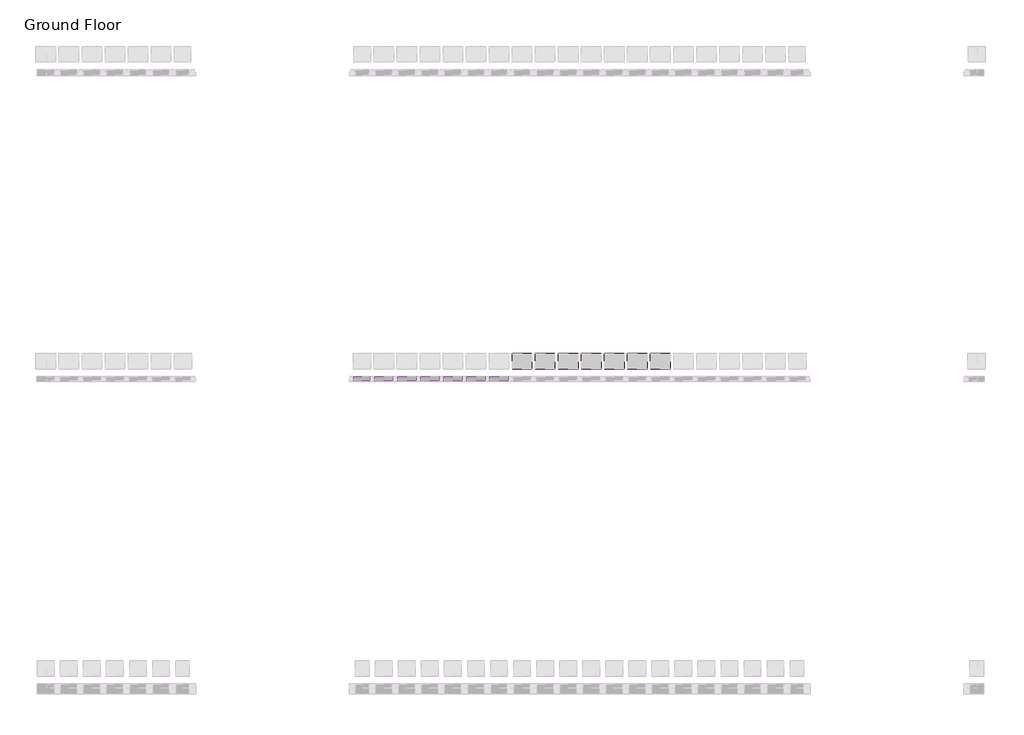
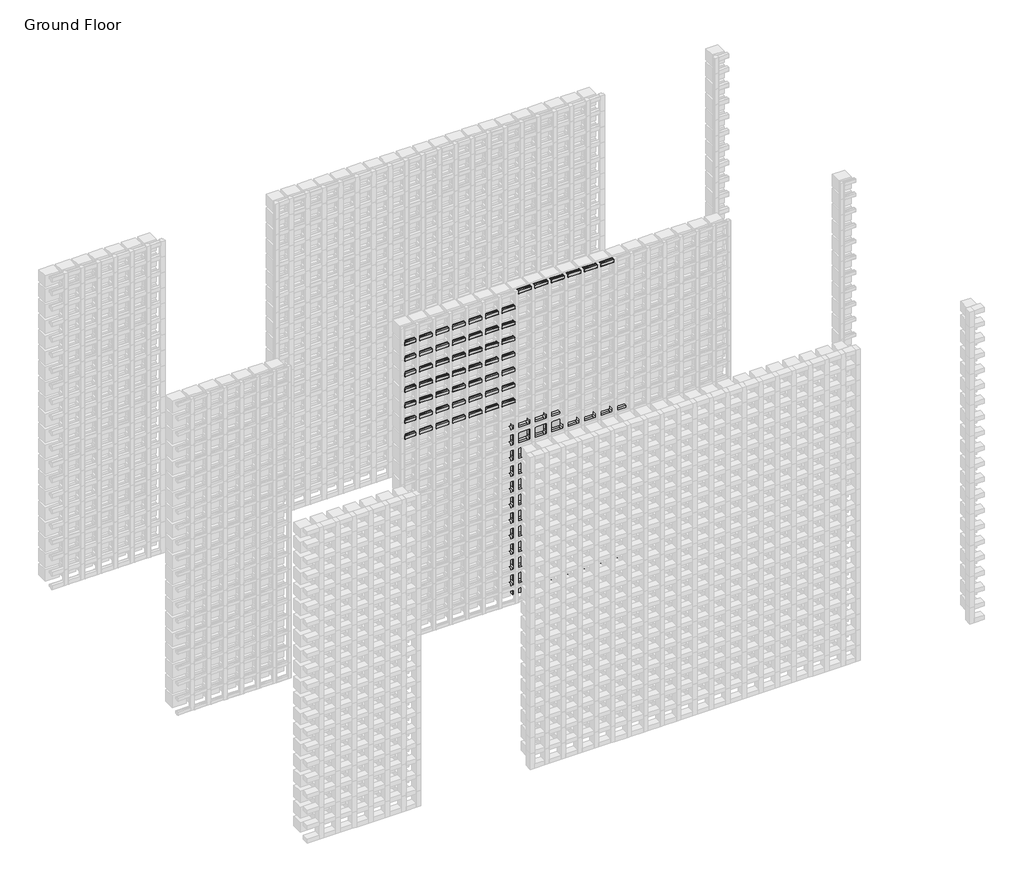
# One storey, part 138 of 350: 73 plates, 67 members.
"""IFC4 building model written with IfcOpenShell, lengths in millimetres."""

from ifc_helpers import new_model, si_unit, origin, place, context, project, spatial, transform, mapped, element, save
from components import rectangular_mullion_01bdf753, rectangular_mullion_f1976eb1, rectangular_mullion_02594090, rectangular_mullion_790ae51e, rectangular_mullion_e2bab149, empty_system_panel_empty_5a3607ba, empty_system_panel_empty_babc703c

model = new_model("IFC4")

# Units and contexts
model_context = context("Model", 3, world=origin())
ifc_project = project(units=[si_unit("LENGTHUNIT", "METRE", prefix="MILLI")], contexts=[model_context])

# Site, building, storey
site = spatial("IfcSite", under=ifc_project)
building = spatial("IfcBuilding", under=site)
storey = spatial("IfcBuildingStorey", under=building, Name="Ground Floor", Elevation=0.0)

# Members
placement = place(None, origin())
rectangular_mullion_shape = rectangular_mullion_01bdf753(model_context)
element("IfcMember", 1, ObjectType="Rectangular Mullion : Batten_Timber_Modinex_Austratus_Grid_Fin_30x30_Hemlock", at=placement, inside=storey, context=model_context, shape_type="MappedRepresentation", body=[
    mapped(rectangular_mullion_shape, transform((10201.4361642, 42968.2978302, 1950.0), x_axis=(0.0, 0.0, 1.0), y_axis=(0.0, -1.0, 0.0), z_axis=(1.0, 0.0, 0.0))),
])
element("IfcMember", 2, ObjectType="Rectangular Mullion : Batten_Timber_Modinex_Austratus_Grid_Fin_30x30_Hemlock", at=placement, inside=storey, context=model_context, shape_type="MappedRepresentation", body=[
    mapped(rectangular_mullion_shape, transform((10351.4361642, 42968.2978302, 1950.0), x_axis=(0.0, 0.0, 1.0), y_axis=(0.0, -1.0, 0.0), z_axis=(1.0, 0.0, 0.0))),
])
element("IfcMember", 3, ObjectType="Rectangular Mullion : Batten_Timber_Modinex_Austratus_Grid_Fin_30x30_Hemlock", at=placement, inside=storey, context=model_context, shape_type="MappedRepresentation", body=[
    mapped(rectangular_mullion_shape, transform((10501.4361642, 42968.2978302, 1950.0), x_axis=(0.0, 0.0, 1.0), y_axis=(0.0, -1.0, 0.0), z_axis=(1.0, 0.0, 0.0))),
])
element("IfcMember", 4, ObjectType="Rectangular Mullion : Batten_Timber_Modinex_Austratus_Grid_Fin_30x30_Hemlock", at=placement, inside=storey, context=model_context, shape_type="MappedRepresentation", body=[
    mapped(rectangular_mullion_shape, transform((10651.4361642, 42968.2978302, 1950.0), x_axis=(0.0, 0.0, 1.0), y_axis=(0.0, -1.0, 0.0), z_axis=(1.0, 0.0, 0.0))),
])
element("IfcMember", 5, ObjectType="Rectangular Mullion : Batten_Timber_Modinex_Austratus_Grid_Fin_30x30_Hemlock", at=placement, inside=storey, context=model_context, shape_type="MappedRepresentation", body=[
    mapped(rectangular_mullion_shape, transform((10801.4361642, 42968.2978302, 1950.0), x_axis=(0.0, 0.0, 1.0), y_axis=(0.0, -1.0, 0.0), z_axis=(1.0, 0.0, 0.0))),
])
element("IfcMember", 6, ObjectType="Rectangular Mullion : Batten_Timber_Modinex_Austratus_Grid_Fin_30x30_Hemlock", at=placement, inside=storey, context=model_context, shape_type="MappedRepresentation", body=[
    mapped(rectangular_mullion_shape, transform((10951.4361642, 42968.2978302, 1950.0), x_axis=(0.0, 0.0, 1.0), y_axis=(0.0, -1.0, 0.0), z_axis=(1.0, 0.0, 0.0))),
])
element("IfcMember", 7, ObjectType="Rectangular Mullion : Batten_Timber_Modinex_Austratus_Grid_Fin_30x30_Hemlock", at=placement, inside=storey, context=model_context, shape_type="MappedRepresentation", body=[
    mapped(rectangular_mullion_shape, transform((10201.4361642, 42968.2978302, 2100.0), x_axis=(0.0, 0.0, 1.0), y_axis=(0.0, -1.0, 0.0), z_axis=(1.0, 0.0, 0.0))),
])
element("IfcMember", 8, ObjectType="Rectangular Mullion : Batten_Timber_Modinex_Austratus_Grid_Fin_30x30_Hemlock", at=placement, inside=storey, context=model_context, shape_type="MappedRepresentation", body=[
    mapped(rectangular_mullion_shape, transform((10351.4361642, 42968.2978302, 2100.0), x_axis=(0.0, 0.0, 1.0), y_axis=(0.0, -1.0, 0.0), z_axis=(1.0, 0.0, 0.0))),
])
element("IfcMember", 9, ObjectType="Rectangular Mullion : Batten_Timber_Modinex_Austratus_Grid_Fin_30x30_Hemlock", at=placement, inside=storey, context=model_context, shape_type="MappedRepresentation", body=[
    mapped(rectangular_mullion_shape, transform((10501.4361642, 42968.2978302, 2100.0), x_axis=(0.0, 0.0, 1.0), y_axis=(0.0, -1.0, 0.0), z_axis=(1.0, 0.0, 0.0))),
])
element("IfcMember", 10, ObjectType="Rectangular Mullion : Batten_Timber_Modinex_Austratus_Grid_Fin_30x30_Hemlock", at=placement, inside=storey, context=model_context, shape_type="MappedRepresentation", body=[
    mapped(rectangular_mullion_shape, transform((10651.4361642, 42968.2978302, 2100.0), x_axis=(0.0, 0.0, 1.0), y_axis=(0.0, -1.0, 0.0), z_axis=(1.0, 0.0, 0.0))),
])
element("IfcMember", 11, ObjectType="Rectangular Mullion : Batten_Timber_Modinex_Austratus_Grid_Fin_30x30_Hemlock", at=placement, inside=storey, context=model_context, shape_type="MappedRepresentation", body=[
    mapped(rectangular_mullion_shape, transform((10801.4361642, 42968.2978302, 2100.0), x_axis=(0.0, 0.0, 1.0), y_axis=(0.0, -1.0, 0.0), z_axis=(1.0, 0.0, 0.0))),
])
element("IfcMember", 12, ObjectType="Rectangular Mullion : Batten_Timber_Modinex_Austratus_Grid_Fin_30x30_Hemlock", at=placement, inside=storey, context=model_context, shape_type="MappedRepresentation", body=[
    mapped(rectangular_mullion_shape, transform((10951.4361642, 42968.2978302, 2100.0), x_axis=(0.0, 0.0, 1.0), y_axis=(0.0, -1.0, 0.0), z_axis=(1.0, 0.0, 0.0))),
])
element("IfcMember", 13, ObjectType="Rectangular Mullion : Batten_Timber_Modinex_Austratus_Grid_Fin_30x30_Hemlock", at=placement, inside=storey, context=model_context, shape_type="MappedRepresentation", body=[
    mapped(rectangular_mullion_shape, transform((10201.4361642, 42968.2978302, 2250.0), x_axis=(0.0, 0.0, 1.0), y_axis=(0.0, -1.0, 0.0), z_axis=(1.0, 0.0, 0.0))),
])
element("IfcMember", 14, ObjectType="Rectangular Mullion : Batten_Timber_Modinex_Austratus_Grid_Fin_30x30_Hemlock", at=placement, inside=storey, context=model_context, shape_type="MappedRepresentation", body=[
    mapped(rectangular_mullion_shape, transform((10351.4361642, 42968.2978302, 2250.0), x_axis=(0.0, 0.0, 1.0), y_axis=(0.0, -1.0, 0.0), z_axis=(1.0, 0.0, 0.0))),
])
element("IfcMember", 15, ObjectType="Rectangular Mullion : Batten_Timber_Modinex_Austratus_Grid_Fin_30x30_Hemlock", at=placement, inside=storey, context=model_context, shape_type="MappedRepresentation", body=[
    mapped(rectangular_mullion_shape, transform((10501.4361642, 42968.2978302, 2250.0), x_axis=(0.0, 0.0, 1.0), y_axis=(0.0, -1.0, 0.0), z_axis=(1.0, 0.0, 0.0))),
])
element("IfcMember", 16, ObjectType="Rectangular Mullion : Batten_Timber_Modinex_Austratus_Grid_Fin_30x30_Hemlock", at=placement, inside=storey, context=model_context, shape_type="MappedRepresentation", body=[
    mapped(rectangular_mullion_shape, transform((10651.4361642, 42968.2978302, 2250.0), x_axis=(0.0, 0.0, 1.0), y_axis=(0.0, -1.0, 0.0), z_axis=(1.0, 0.0, 0.0))),
])
element("IfcMember", 17, ObjectType="Rectangular Mullion : Batten_Timber_Modinex_Austratus_Grid_Fin_30x30_Hemlock", at=placement, inside=storey, context=model_context, shape_type="MappedRepresentation", body=[
    mapped(rectangular_mullion_shape, transform((10801.4361642, 42968.2978302, 2250.0), x_axis=(0.0, 0.0, 1.0), y_axis=(0.0, -1.0, 0.0), z_axis=(1.0, 0.0, 0.0))),
])
element("IfcMember", 18, ObjectType="Rectangular Mullion : Batten_Timber_Modinex_Austratus_Grid_Fin_30x30_Hemlock", at=placement, inside=storey, context=model_context, shape_type="MappedRepresentation", body=[
    mapped(rectangular_mullion_shape, transform((10951.4361642, 42968.2978302, 2250.0), x_axis=(0.0, 0.0, 1.0), y_axis=(0.0, -1.0, 0.0), z_axis=(1.0, 0.0, 0.0))),
])
element("IfcMember", 19, ObjectType="Rectangular Mullion : Batten_Timber_Modinex_Austratus_Grid_Fin_30x30_Hemlock", at=placement, inside=storey, context=model_context, shape_type="MappedRepresentation", body=[
    mapped(rectangular_mullion_shape, transform((10201.4361642, 42968.2978302, 2400.0), x_axis=(0.0, 0.0, 1.0), y_axis=(0.0, -1.0, 0.0), z_axis=(1.0, 0.0, 0.0))),
])
element("IfcMember", 20, ObjectType="Rectangular Mullion : Batten_Timber_Modinex_Austratus_Grid_Fin_30x30_Hemlock", at=placement, inside=storey, context=model_context, shape_type="MappedRepresentation", body=[
    mapped(rectangular_mullion_shape, transform((10351.4361642, 42968.2978302, 2400.0), x_axis=(0.0, 0.0, 1.0), y_axis=(0.0, -1.0, 0.0), z_axis=(1.0, 0.0, 0.0))),
])
element("IfcMember", 21, ObjectType="Rectangular Mullion : Batten_Timber_Modinex_Austratus_Grid_Fin_30x30_Hemlock", at=placement, inside=storey, context=model_context, shape_type="MappedRepresentation", body=[
    mapped(rectangular_mullion_shape, transform((10501.4361642, 42968.2978302, 2400.0), x_axis=(0.0, 0.0, 1.0), y_axis=(0.0, -1.0, 0.0), z_axis=(1.0, 0.0, 0.0))),
])
element("IfcMember", 22, ObjectType="Rectangular Mullion : Batten_Timber_Modinex_Austratus_Grid_Fin_30x30_Hemlock", at=placement, inside=storey, context=model_context, shape_type="MappedRepresentation", body=[
    mapped(rectangular_mullion_shape, transform((10651.4361642, 42968.2978302, 2400.0), x_axis=(0.0, 0.0, 1.0), y_axis=(0.0, -1.0, 0.0), z_axis=(1.0, 0.0, 0.0))),
])
element("IfcMember", 23, ObjectType="Rectangular Mullion : Batten_Timber_Modinex_Austratus_Grid_Fin_30x30_Hemlock", at=placement, inside=storey, context=model_context, shape_type="MappedRepresentation", body=[
    mapped(rectangular_mullion_shape, transform((10801.4361642, 42968.2978302, 2400.0), x_axis=(0.0, 0.0, 1.0), y_axis=(0.0, -1.0, 0.0), z_axis=(1.0, 0.0, 0.0))),
])
element("IfcMember", 24, ObjectType="Rectangular Mullion : Batten_Timber_Modinex_Austratus_Grid_Fin_30x30_Hemlock", at=placement, inside=storey, context=model_context, shape_type="MappedRepresentation", body=[
    mapped(rectangular_mullion_shape, transform((10951.4361642, 42968.2978302, 2400.0), x_axis=(0.0, 0.0, 1.0), y_axis=(0.0, -1.0, 0.0), z_axis=(1.0, 0.0, 0.0))),
])
element("IfcMember", 25, ObjectType="Rectangular Mullion : Batten_Timber_Modinex_Austratus_Grid_Fin_30x30_Hemlock", at=placement, inside=storey, context=model_context, shape_type="MappedRepresentation", body=[
    mapped(rectangular_mullion_shape, transform((10201.4361642, 42968.2978302, 2550.0), x_axis=(0.0, 0.0, 1.0), y_axis=(0.0, -1.0, 0.0), z_axis=(1.0, 0.0, 0.0))),
])
element("IfcMember", 26, ObjectType="Rectangular Mullion : Batten_Timber_Modinex_Austratus_Grid_Fin_30x30_Hemlock", at=placement, inside=storey, context=model_context, shape_type="MappedRepresentation", body=[
    mapped(rectangular_mullion_shape, transform((10351.4361642, 42968.2978302, 2550.0), x_axis=(0.0, 0.0, 1.0), y_axis=(0.0, -1.0, 0.0), z_axis=(1.0, 0.0, 0.0))),
])
element("IfcMember", 27, ObjectType="Rectangular Mullion : Batten_Timber_Modinex_Austratus_Grid_Fin_30x30_Hemlock", at=placement, inside=storey, context=model_context, shape_type="MappedRepresentation", body=[
    mapped(rectangular_mullion_shape, transform((10501.4361642, 42968.2978302, 2550.0), x_axis=(0.0, 0.0, 1.0), y_axis=(0.0, -1.0, 0.0), z_axis=(1.0, 0.0, 0.0))),
])
element("IfcMember", 28, ObjectType="Rectangular Mullion : Batten_Timber_Modinex_Austratus_Grid_Fin_30x30_Hemlock", at=placement, inside=storey, context=model_context, shape_type="MappedRepresentation", body=[
    mapped(rectangular_mullion_shape, transform((10651.4361642, 42968.2978302, 2550.0), x_axis=(0.0, 0.0, 1.0), y_axis=(0.0, -1.0, 0.0), z_axis=(1.0, 0.0, 0.0))),
])
element("IfcMember", 29, ObjectType="Rectangular Mullion : Batten_Timber_Modinex_Austratus_Grid_Fin_30x30_Hemlock", at=placement, inside=storey, context=model_context, shape_type="MappedRepresentation", body=[
    mapped(rectangular_mullion_shape, transform((10801.4361642, 42968.2978302, 2550.0), x_axis=(0.0, 0.0, 1.0), y_axis=(0.0, -1.0, 0.0), z_axis=(1.0, 0.0, 0.0))),
])
element("IfcMember", 30, ObjectType="Rectangular Mullion : Batten_Timber_Modinex_Austratus_Grid_Fin_30x30_Hemlock", at=placement, inside=storey, context=model_context, shape_type="MappedRepresentation", body=[
    mapped(rectangular_mullion_shape, transform((10951.4361642, 42968.2978302, 2550.0), x_axis=(0.0, 0.0, 1.0), y_axis=(0.0, -1.0, 0.0), z_axis=(1.0, 0.0, 0.0))),
])
element("IfcMember", 31, ObjectType="Rectangular Mullion : Batten_Timber_Modinex_Austratus_Grid_Fin_30x30_Hemlock", at=placement, inside=storey, context=model_context, shape_type="MappedRepresentation", body=[
    mapped(rectangular_mullion_shape, transform((10201.4361642, 42968.2978302, 2700.0), x_axis=(0.0, 0.0, 1.0), y_axis=(0.0, -1.0, 0.0), z_axis=(1.0, 0.0, 0.0))),
])
element("IfcMember", 32, ObjectType="Rectangular Mullion : Batten_Timber_Modinex_Austratus_Grid_Fin_30x30_Hemlock", at=placement, inside=storey, context=model_context, shape_type="MappedRepresentation", body=[
    mapped(rectangular_mullion_shape, transform((10351.4361642, 42968.2978302, 2700.0), x_axis=(0.0, 0.0, 1.0), y_axis=(0.0, -1.0, 0.0), z_axis=(1.0, 0.0, 0.0))),
])
element("IfcMember", 33, ObjectType="Rectangular Mullion : Batten_Timber_Modinex_Austratus_Grid_Fin_30x30_Hemlock", at=placement, inside=storey, context=model_context, shape_type="MappedRepresentation", body=[
    mapped(rectangular_mullion_shape, transform((10501.4361642, 42968.2978302, 2700.0), x_axis=(0.0, 0.0, 1.0), y_axis=(0.0, -1.0, 0.0), z_axis=(1.0, 0.0, 0.0))),
])
element("IfcMember", 34, ObjectType="Rectangular Mullion : Batten_Timber_Modinex_Austratus_Grid_Fin_30x30_Hemlock", at=placement, inside=storey, context=model_context, shape_type="MappedRepresentation", body=[
    mapped(rectangular_mullion_shape, transform((10651.4361642, 42968.2978302, 2700.0), x_axis=(0.0, 0.0, 1.0), y_axis=(0.0, -1.0, 0.0), z_axis=(1.0, 0.0, 0.0))),
])
element("IfcMember", 35, ObjectType="Rectangular Mullion : Batten_Timber_Modinex_Austratus_Grid_Fin_30x30_Hemlock", at=placement, inside=storey, context=model_context, shape_type="MappedRepresentation", body=[
    mapped(rectangular_mullion_shape, transform((10801.4361642, 42968.2978302, 2700.0), x_axis=(0.0, 0.0, 1.0), y_axis=(0.0, -1.0, 0.0), z_axis=(1.0, 0.0, 0.0))),
])
element("IfcMember", 36, ObjectType="Rectangular Mullion : Batten_Timber_Modinex_Austratus_Grid_Fin_30x30_Hemlock", at=placement, inside=storey, context=model_context, shape_type="MappedRepresentation", body=[
    mapped(rectangular_mullion_shape, transform((10951.4361642, 42968.2978302, 2700.0), x_axis=(0.0, 0.0, 1.0), y_axis=(0.0, -1.0, 0.0), z_axis=(1.0, 0.0, 0.0))),
])
element("IfcMember", 37, ObjectType="Rectangular Mullion : Batten_Timber_Modinex_Austratus_Grid_Fin_30x30_Hemlock", at=placement, inside=storey, context=model_context, shape_type="MappedRepresentation", body=[
    mapped(rectangular_mullion_shape, transform((10201.4361642, 42968.2978302, 2850.0), x_axis=(0.0, 0.0, 1.0), y_axis=(0.0, -1.0, 0.0), z_axis=(1.0, 0.0, 0.0))),
])
element("IfcMember", 38, ObjectType="Rectangular Mullion : Batten_Timber_Modinex_Austratus_Grid_Fin_30x30_Hemlock", at=placement, inside=storey, context=model_context, shape_type="MappedRepresentation", body=[
    mapped(rectangular_mullion_shape, transform((10351.4361642, 42968.2978302, 2850.0), x_axis=(0.0, 0.0, 1.0), y_axis=(0.0, -1.0, 0.0), z_axis=(1.0, 0.0, 0.0))),
])
element("IfcMember", 39, ObjectType="Rectangular Mullion : Batten_Timber_Modinex_Austratus_Grid_Fin_30x30_Hemlock", at=placement, inside=storey, context=model_context, shape_type="MappedRepresentation", body=[
    mapped(rectangular_mullion_shape, transform((10501.4361642, 42968.2978302, 2850.0), x_axis=(0.0, 0.0, 1.0), y_axis=(0.0, -1.0, 0.0), z_axis=(1.0, 0.0, 0.0))),
])
element("IfcMember", 40, ObjectType="Rectangular Mullion : Batten_Timber_Modinex_Austratus_Grid_Fin_30x30_Hemlock", at=placement, inside=storey, context=model_context, shape_type="MappedRepresentation", body=[
    mapped(rectangular_mullion_shape, transform((10651.4361642, 42968.2978302, 2850.0), x_axis=(0.0, 0.0, 1.0), y_axis=(0.0, -1.0, 0.0), z_axis=(1.0, 0.0, 0.0))),
])
element("IfcMember", 41, ObjectType="Rectangular Mullion : Batten_Timber_Modinex_Austratus_Grid_Fin_30x30_Hemlock", at=placement, inside=storey, context=model_context, shape_type="MappedRepresentation", body=[
    mapped(rectangular_mullion_shape, transform((10801.4361642, 42968.2978302, 2850.0), x_axis=(0.0, 0.0, 1.0), y_axis=(0.0, -1.0, 0.0), z_axis=(1.0, 0.0, 0.0))),
])
element("IfcMember", 42, ObjectType="Rectangular Mullion : Batten_Timber_Modinex_Austratus_Grid_Fin_30x30_Hemlock", at=placement, inside=storey, context=model_context, shape_type="MappedRepresentation", body=[
    mapped(rectangular_mullion_shape, transform((10951.4361642, 42968.2978302, 2850.0), x_axis=(0.0, 0.0, 1.0), y_axis=(0.0, -1.0, 0.0), z_axis=(1.0, 0.0, 0.0))),
])
rectangular_mullion_2_shape = rectangular_mullion_f1976eb1(model_context)
element("IfcMember", 43, ObjectType="Rectangular Mullion : Batten_Timber_Modinex_Austratus_Grid_Fin_30x30_Hemlock", at=placement, inside=storey, context=model_context, shape_type="MappedRepresentation", body=[
    mapped(rectangular_mullion_2_shape, transform((11116.4361642, 42968.2978302, 0.0), x_axis=(1.0, 0.0, 0.0), y_axis=(0.0, -1.0, 0.0), z_axis=(0.0, 0.0, -1.0))),
])
element("IfcMember", 44, ObjectType="Rectangular Mullion : Batten_Timber_Modinex_Austratus_Grid_Fin_30x30_Hemlock", at=placement, inside=storey, context=model_context, shape_type="MappedRepresentation", body=[
    mapped(rectangular_mullion_2_shape, transform((11266.4361642, 42968.2978302, 0.0), x_axis=(1.0, 0.0, 0.0), y_axis=(0.0, -1.0, 0.0), z_axis=(0.0, 0.0, -1.0))),
])
element("IfcMember", 45, ObjectType="Rectangular Mullion : Batten_Timber_Modinex_Austratus_Grid_Fin_30x30_Hemlock", at=placement, inside=storey, context=model_context, shape_type="MappedRepresentation", body=[
    mapped(rectangular_mullion_2_shape, transform((11416.4361642, 42968.2978302, 0.0), x_axis=(1.0, 0.0, 0.0), y_axis=(0.0, -1.0, 0.0), z_axis=(0.0, 0.0, -1.0))),
])
element("IfcMember", 46, ObjectType="Rectangular Mullion : Batten_Timber_Modinex_Austratus_Grid_Fin_30x30_Hemlock", at=placement, inside=storey, context=model_context, shape_type="MappedRepresentation", body=[
    mapped(rectangular_mullion_2_shape, transform((11566.4361642, 42968.2978302, 0.0), x_axis=(1.0, 0.0, 0.0), y_axis=(0.0, -1.0, 0.0), z_axis=(0.0, 0.0, -1.0))),
])
element("IfcMember", 47, ObjectType="Rectangular Mullion : Batten_Timber_Modinex_Austratus_Grid_Fin_30x30_Hemlock", at=placement, inside=storey, context=model_context, shape_type="MappedRepresentation", body=[
    mapped(rectangular_mullion_2_shape, transform((11716.4361642, 42968.2978302, 0.0), x_axis=(1.0, 0.0, 0.0), y_axis=(0.0, -1.0, 0.0), z_axis=(0.0, 0.0, -1.0))),
])
element("IfcMember", 48, ObjectType="Rectangular Mullion : Batten_Timber_Modinex_Austratus_Grid_Fin_30x30_Hemlock", at=placement, inside=storey, context=model_context, shape_type="MappedRepresentation", body=[
    mapped(rectangular_mullion_2_shape, transform((11866.4361642, 42968.2978302, 0.0), x_axis=(1.0, 0.0, 0.0), y_axis=(0.0, -1.0, 0.0), z_axis=(0.0, 0.0, -1.0))),
])
rectangular_mullion_3_shape = rectangular_mullion_02594090(model_context)
element("IfcMember", 49, ObjectType="Rectangular Mullion : Batten_Timber_Modinex_Austratus_Grid_Fin_30x30_Hemlock", at=placement, inside=storey, context=model_context, shape_type="MappedRepresentation", body=[
    mapped(rectangular_mullion_3_shape, transform((11101.4361642, 42968.2978302, 3000.0), x_axis=(0.0, 0.0, 1.0), y_axis=(0.0, -1.0, 0.0), z_axis=(1.0, 0.0, 0.0))),
])
element("IfcMember", 50, ObjectType="Rectangular Mullion : Batten_Timber_Modinex_Austratus_Grid_Fin_30x30_Hemlock", at=placement, inside=storey, context=model_context, shape_type="MappedRepresentation", body=[
    mapped(rectangular_mullion_3_shape, transform((11251.4361642, 42968.2978302, 3000.0), x_axis=(0.0, 0.0, 1.0), y_axis=(0.0, -1.0, 0.0), z_axis=(1.0, 0.0, 0.0))),
])
element("IfcMember", 51, ObjectType="Rectangular Mullion : Batten_Timber_Modinex_Austratus_Grid_Fin_30x30_Hemlock", at=placement, inside=storey, context=model_context, shape_type="MappedRepresentation", body=[
    mapped(rectangular_mullion_3_shape, transform((11401.4361642, 42968.2978302, 3000.0), x_axis=(0.0, 0.0, 1.0), y_axis=(0.0, -1.0, 0.0), z_axis=(1.0, 0.0, 0.0))),
])
element("IfcMember", 52, ObjectType="Rectangular Mullion : Batten_Timber_Modinex_Austratus_Grid_Fin_30x30_Hemlock", at=placement, inside=storey, context=model_context, shape_type="MappedRepresentation", body=[
    mapped(rectangular_mullion_3_shape, transform((11551.4361642, 42968.2978302, 3000.0), x_axis=(0.0, 0.0, 1.0), y_axis=(0.0, -1.0, 0.0), z_axis=(1.0, 0.0, 0.0))),
])
element("IfcMember", 53, ObjectType="Rectangular Mullion : Batten_Timber_Modinex_Austratus_Grid_Fin_30x30_Hemlock", at=placement, inside=storey, context=model_context, shape_type="MappedRepresentation", body=[
    mapped(rectangular_mullion_3_shape, transform((11701.4361642, 42968.2978302, 3000.0), x_axis=(0.0, 0.0, 1.0), y_axis=(0.0, -1.0, 0.0), z_axis=(1.0, 0.0, 0.0))),
])
element("IfcMember", 54, ObjectType="Rectangular Mullion : Batten_Timber_Modinex_Austratus_Grid_Fin_30x30_Hemlock", at=placement, inside=storey, context=model_context, shape_type="MappedRepresentation", body=[
    mapped(rectangular_mullion_3_shape, transform((11851.4361642, 42968.2978302, 3000.0), x_axis=(0.0, 0.0, 1.0), y_axis=(0.0, -1.0, 0.0), z_axis=(1.0, 0.0, 0.0))),
])
rectangular_mullion_4_shape = rectangular_mullion_790ae51e(model_context)
element("IfcMember", 55, ObjectType="Rectangular Mullion : Batten_Timber_Modinex_Austratus_Grid_Fin_30x30_Hemlock", at=placement, inside=storey, context=model_context, shape_type="MappedRepresentation", body=[
    mapped(rectangular_mullion_4_shape, transform((11131.4361642, 42968.2978302, 0.0), x_axis=(0.0, 0.0, -1.0), y_axis=(0.0, -1.0, 0.0), z_axis=(-1.0, 0.0, 0.0))),
])
element("IfcMember", 56, ObjectType="Rectangular Mullion : Batten_Timber_Modinex_Austratus_Grid_Fin_30x30_Hemlock", at=placement, inside=storey, context=model_context, shape_type="MappedRepresentation", body=[
    mapped(rectangular_mullion_4_shape, transform((11281.4361642, 42968.2978302, 0.0), x_axis=(0.0, 0.0, -1.0), y_axis=(0.0, -1.0, 0.0), z_axis=(-1.0, 0.0, 0.0))),
])
element("IfcMember", 57, ObjectType="Rectangular Mullion : Batten_Timber_Modinex_Austratus_Grid_Fin_30x30_Hemlock", at=placement, inside=storey, context=model_context, shape_type="MappedRepresentation", body=[
    mapped(rectangular_mullion_4_shape, transform((11431.4361642, 42968.2978302, 0.0), x_axis=(0.0, 0.0, -1.0), y_axis=(0.0, -1.0, 0.0), z_axis=(-1.0, 0.0, 0.0))),
])
element("IfcMember", 58, ObjectType="Rectangular Mullion : Batten_Timber_Modinex_Austratus_Grid_Fin_30x30_Hemlock", at=placement, inside=storey, context=model_context, shape_type="MappedRepresentation", body=[
    mapped(rectangular_mullion_4_shape, transform((11581.4361642, 42968.2978302, 0.0), x_axis=(0.0, 0.0, -1.0), y_axis=(0.0, -1.0, 0.0), z_axis=(-1.0, 0.0, 0.0))),
])
element("IfcMember", 59, ObjectType="Rectangular Mullion : Batten_Timber_Modinex_Austratus_Grid_Fin_30x30_Hemlock", at=placement, inside=storey, context=model_context, shape_type="MappedRepresentation", body=[
    mapped(rectangular_mullion_4_shape, transform((11731.4361642, 42968.2978302, 0.0), x_axis=(0.0, 0.0, -1.0), y_axis=(0.0, -1.0, 0.0), z_axis=(-1.0, 0.0, 0.0))),
])
element("IfcMember", 60, ObjectType="Rectangular Mullion : Batten_Timber_Modinex_Austratus_Grid_Fin_30x30_Hemlock", at=placement, inside=storey, context=model_context, shape_type="MappedRepresentation", body=[
    mapped(rectangular_mullion_4_shape, transform((11881.4361642, 42968.2978302, 0.0), x_axis=(0.0, 0.0, -1.0), y_axis=(0.0, -1.0, 0.0), z_axis=(-1.0, 0.0, 0.0))),
])
rectangular_mullion_5_shape = rectangular_mullion_e2bab149(model_context)
element("IfcMember", 61, ObjectType="Rectangular Mullion : Batten_Timber_Modinex_Austratus_Grid_Fin_30x30_Hemlock", at=placement, inside=storey, context=model_context, shape_type="MappedRepresentation", body=[
    mapped(rectangular_mullion_5_shape, transform((10051.4361642, 42968.2978302, 1950.0), x_axis=(0.0, 0.0, 1.0), y_axis=(0.0, -1.0, 0.0), z_axis=(1.0, 0.0, 0.0))),
])
element("IfcMember", 62, ObjectType="Rectangular Mullion : Batten_Timber_Modinex_Austratus_Grid_Fin_30x30_Hemlock", at=placement, inside=storey, context=model_context, shape_type="MappedRepresentation", body=[
    mapped(rectangular_mullion_5_shape, transform((10051.4361642, 42968.2978302, 2100.0), x_axis=(0.0, 0.0, 1.0), y_axis=(0.0, -1.0, 0.0), z_axis=(1.0, 0.0, 0.0))),
])
element("IfcMember", 63, ObjectType="Rectangular Mullion : Batten_Timber_Modinex_Austratus_Grid_Fin_30x30_Hemlock", at=placement, inside=storey, context=model_context, shape_type="MappedRepresentation", body=[
    mapped(rectangular_mullion_5_shape, transform((10051.4361642, 42968.2978302, 2250.0), x_axis=(0.0, 0.0, 1.0), y_axis=(0.0, -1.0, 0.0), z_axis=(1.0, 0.0, 0.0))),
])
element("IfcMember", 64, ObjectType="Rectangular Mullion : Batten_Timber_Modinex_Austratus_Grid_Fin_30x30_Hemlock", at=placement, inside=storey, context=model_context, shape_type="MappedRepresentation", body=[
    mapped(rectangular_mullion_5_shape, transform((10051.4361642, 42968.2978302, 2400.0), x_axis=(0.0, 0.0, 1.0), y_axis=(0.0, -1.0, 0.0), z_axis=(1.0, 0.0, 0.0))),
])
element("IfcMember", 65, ObjectType="Rectangular Mullion : Batten_Timber_Modinex_Austratus_Grid_Fin_30x30_Hemlock", at=placement, inside=storey, context=model_context, shape_type="MappedRepresentation", body=[
    mapped(rectangular_mullion_5_shape, transform((10051.4361642, 42968.2978302, 2550.0), x_axis=(0.0, 0.0, 1.0), y_axis=(0.0, -1.0, 0.0), z_axis=(1.0, 0.0, 0.0))),
])
element("IfcMember", 66, ObjectType="Rectangular Mullion : Batten_Timber_Modinex_Austratus_Grid_Fin_30x30_Hemlock", at=placement, inside=storey, context=model_context, shape_type="MappedRepresentation", body=[
    mapped(rectangular_mullion_5_shape, transform((10051.4361642, 42968.2978302, 2700.0), x_axis=(0.0, 0.0, 1.0), y_axis=(0.0, -1.0, 0.0), z_axis=(1.0, 0.0, 0.0))),
])
element("IfcMember", 67, ObjectType="Rectangular Mullion : Batten_Timber_Modinex_Austratus_Grid_Fin_30x30_Hemlock", at=placement, inside=storey, context=model_context, shape_type="MappedRepresentation", body=[
    mapped(rectangular_mullion_5_shape, transform((10051.4361642, 42968.2978302, 2850.0), x_axis=(0.0, 0.0, 1.0), y_axis=(0.0, -1.0, 0.0), z_axis=(1.0, 0.0, 0.0))),
])

# Plates
empty_system_panel_empty_shape = empty_system_panel_empty_5a3607ba(model_context)
element("IfcPlate", 68, ObjectType="Empty System Panel : Empty", at=placement, inside=storey, context=model_context, shape_type="MappedRepresentation", body=[
    mapped(empty_system_panel_empty_shape, transform((11041.4361642, 42968.2978302, 160.812195), x_axis=(1.0, 0.0, 0.0), y_axis=(0.0, 1.0, 0.0), z_axis=(0.0, 0.0, 1.0))),
])
element("IfcPlate", 69, ObjectType="Empty System Panel : Empty", at=placement, inside=storey, context=model_context, shape_type="MappedRepresentation", body=[
    mapped(empty_system_panel_empty_shape, transform((11191.4361642, 42968.2978302, 160.812195), x_axis=(1.0, 0.0, 0.0), y_axis=(0.0, 1.0, 0.0), z_axis=(0.0, 0.0, 1.0))),
])
element("IfcPlate", 70, ObjectType="Empty System Panel : Empty", at=placement, inside=storey, context=model_context, shape_type="MappedRepresentation", body=[
    mapped(empty_system_panel_empty_shape, transform((11341.4361642, 42968.2978302, 160.812195), x_axis=(1.0, 0.0, 0.0), y_axis=(0.0, 1.0, 0.0), z_axis=(0.0, 0.0, 1.0))),
])
element("IfcPlate", 71, ObjectType="Empty System Panel : Empty", at=placement, inside=storey, context=model_context, shape_type="MappedRepresentation", body=[
    mapped(empty_system_panel_empty_shape, transform((11491.4361642, 42968.2978302, 160.812195), x_axis=(1.0, 0.0, 0.0), y_axis=(0.0, 1.0, 0.0), z_axis=(0.0, 0.0, 1.0))),
])
element("IfcPlate", 72, ObjectType="Empty System Panel : Empty", at=placement, inside=storey, context=model_context, shape_type="MappedRepresentation", body=[
    mapped(empty_system_panel_empty_shape, transform((11641.4361642, 42968.2978302, 160.812195), x_axis=(1.0, 0.0, 0.0), y_axis=(0.0, 1.0, 0.0), z_axis=(0.0, 0.0, 1.0))),
])
element("IfcPlate", 73, ObjectType="Empty System Panel : Empty", at=placement, inside=storey, context=model_context, shape_type="MappedRepresentation", body=[
    mapped(empty_system_panel_empty_shape, transform((11791.4361642, 42968.2978302, 160.812195), x_axis=(1.0, 0.0, 0.0), y_axis=(0.0, 1.0, 0.0), z_axis=(0.0, 0.0, 1.0))),
])
element("IfcPlate", 74, ObjectType="Empty System Panel : Empty", at=placement, inside=storey, context=model_context, shape_type="MappedRepresentation", body=[
    mapped(empty_system_panel_empty_shape, transform((11941.4361642, 42968.2978302, 160.812195), x_axis=(1.0, 0.0, 0.0), y_axis=(0.0, 1.0, 0.0), z_axis=(0.0, 0.0, 1.0))),
])
element("IfcPlate", 75, ObjectType="Empty System Panel : Empty", at=placement, inside=storey, context=model_context, shape_type="MappedRepresentation", body=[
    mapped(empty_system_panel_empty_shape, transform((11041.4361642, 42968.2978302, 310.812195), x_axis=(1.0, 0.0, 0.0), y_axis=(0.0, 1.0, 0.0), z_axis=(0.0, 0.0, 1.0))),
])
element("IfcPlate", 76, ObjectType="Empty System Panel : Empty", at=placement, inside=storey, context=model_context, shape_type="MappedRepresentation", body=[
    mapped(empty_system_panel_empty_shape, transform((11191.4361642, 42968.2978302, 310.812195), x_axis=(1.0, 0.0, 0.0), y_axis=(0.0, 1.0, 0.0), z_axis=(0.0, 0.0, 1.0))),
])
element("IfcPlate", 77, ObjectType="Empty System Panel : Empty", at=placement, inside=storey, context=model_context, shape_type="MappedRepresentation", body=[
    mapped(empty_system_panel_empty_shape, transform((11341.4361642, 42968.2978302, 310.812195), x_axis=(1.0, 0.0, 0.0), y_axis=(0.0, 1.0, 0.0), z_axis=(0.0, 0.0, 1.0))),
])
element("IfcPlate", 78, ObjectType="Empty System Panel : Empty", at=placement, inside=storey, context=model_context, shape_type="MappedRepresentation", body=[
    mapped(empty_system_panel_empty_shape, transform((11491.4361642, 42968.2978302, 310.812195), x_axis=(1.0, 0.0, 0.0), y_axis=(0.0, 1.0, 0.0), z_axis=(0.0, 0.0, 1.0))),
])
element("IfcPlate", 79, ObjectType="Empty System Panel : Empty", at=placement, inside=storey, context=model_context, shape_type="MappedRepresentation", body=[
    mapped(empty_system_panel_empty_shape, transform((11641.4361642, 42968.2978302, 310.812195), x_axis=(1.0, 0.0, 0.0), y_axis=(0.0, 1.0, 0.0), z_axis=(0.0, 0.0, 1.0))),
])
element("IfcPlate", 80, ObjectType="Empty System Panel : Empty", at=placement, inside=storey, context=model_context, shape_type="MappedRepresentation", body=[
    mapped(empty_system_panel_empty_shape, transform((11791.4361642, 42968.2978302, 310.812195), x_axis=(1.0, 0.0, 0.0), y_axis=(0.0, 1.0, 0.0), z_axis=(0.0, 0.0, 1.0))),
])
element("IfcPlate", 81, ObjectType="Empty System Panel : Empty", at=placement, inside=storey, context=model_context, shape_type="MappedRepresentation", body=[
    mapped(empty_system_panel_empty_shape, transform((11941.4361642, 42968.2978302, 310.812195), x_axis=(1.0, 0.0, 0.0), y_axis=(0.0, 1.0, 0.0), z_axis=(0.0, 0.0, 1.0))),
])
element("IfcPlate", 82, ObjectType="Empty System Panel : Empty", at=placement, inside=storey, context=model_context, shape_type="MappedRepresentation", body=[
    mapped(empty_system_panel_empty_shape, transform((11041.4361642, 42968.2978302, 460.812195), x_axis=(1.0, 0.0, 0.0), y_axis=(0.0, 1.0, 0.0), z_axis=(0.0, 0.0, 1.0))),
])
element("IfcPlate", 83, ObjectType="Empty System Panel : Empty", at=placement, inside=storey, context=model_context, shape_type="MappedRepresentation", body=[
    mapped(empty_system_panel_empty_shape, transform((11191.4361642, 42968.2978302, 460.812195), x_axis=(1.0, 0.0, 0.0), y_axis=(0.0, 1.0, 0.0), z_axis=(0.0, 0.0, 1.0))),
])
element("IfcPlate", 84, ObjectType="Empty System Panel : Empty", at=placement, inside=storey, context=model_context, shape_type="MappedRepresentation", body=[
    mapped(empty_system_panel_empty_shape, transform((11341.4361642, 42968.2978302, 460.812195), x_axis=(1.0, 0.0, 0.0), y_axis=(0.0, 1.0, 0.0), z_axis=(0.0, 0.0, 1.0))),
])
element("IfcPlate", 85, ObjectType="Empty System Panel : Empty", at=placement, inside=storey, context=model_context, shape_type="MappedRepresentation", body=[
    mapped(empty_system_panel_empty_shape, transform((11491.4361642, 42968.2978302, 460.812195), x_axis=(1.0, 0.0, 0.0), y_axis=(0.0, 1.0, 0.0), z_axis=(0.0, 0.0, 1.0))),
])
element("IfcPlate", 86, ObjectType="Empty System Panel : Empty", at=placement, inside=storey, context=model_context, shape_type="MappedRepresentation", body=[
    mapped(empty_system_panel_empty_shape, transform((11641.4361642, 42968.2978302, 460.812195), x_axis=(1.0, 0.0, 0.0), y_axis=(0.0, 1.0, 0.0), z_axis=(0.0, 0.0, 1.0))),
])
element("IfcPlate", 87, ObjectType="Empty System Panel : Empty", at=placement, inside=storey, context=model_context, shape_type="MappedRepresentation", body=[
    mapped(empty_system_panel_empty_shape, transform((11791.4361642, 42968.2978302, 460.812195), x_axis=(1.0, 0.0, 0.0), y_axis=(0.0, 1.0, 0.0), z_axis=(0.0, 0.0, 1.0))),
])
element("IfcPlate", 88, ObjectType="Empty System Panel : Empty", at=placement, inside=storey, context=model_context, shape_type="MappedRepresentation", body=[
    mapped(empty_system_panel_empty_shape, transform((11941.4361642, 42968.2978302, 460.812195), x_axis=(1.0, 0.0, 0.0), y_axis=(0.0, 1.0, 0.0), z_axis=(0.0, 0.0, 1.0))),
])
element("IfcPlate", 89, ObjectType="Empty System Panel : Empty", at=placement, inside=storey, context=model_context, shape_type="MappedRepresentation", body=[
    mapped(empty_system_panel_empty_shape, transform((11041.4361642, 42968.2978302, 610.812195), x_axis=(1.0, 0.0, 0.0), y_axis=(0.0, 1.0, 0.0), z_axis=(0.0, 0.0, 1.0))),
])
element("IfcPlate", 90, ObjectType="Empty System Panel : Empty", at=placement, inside=storey, context=model_context, shape_type="MappedRepresentation", body=[
    mapped(empty_system_panel_empty_shape, transform((11191.4361642, 42968.2978302, 610.812195), x_axis=(1.0, 0.0, 0.0), y_axis=(0.0, 1.0, 0.0), z_axis=(0.0, 0.0, 1.0))),
])
element("IfcPlate", 91, ObjectType="Empty System Panel : Empty", at=placement, inside=storey, context=model_context, shape_type="MappedRepresentation", body=[
    mapped(empty_system_panel_empty_shape, transform((11341.4361642, 42968.2978302, 610.812195), x_axis=(1.0, 0.0, 0.0), y_axis=(0.0, 1.0, 0.0), z_axis=(0.0, 0.0, 1.0))),
])
element("IfcPlate", 92, ObjectType="Empty System Panel : Empty", at=placement, inside=storey, context=model_context, shape_type="MappedRepresentation", body=[
    mapped(empty_system_panel_empty_shape, transform((11491.4361642, 42968.2978302, 610.812195), x_axis=(1.0, 0.0, 0.0), y_axis=(0.0, 1.0, 0.0), z_axis=(0.0, 0.0, 1.0))),
])
element("IfcPlate", 93, ObjectType="Empty System Panel : Empty", at=placement, inside=storey, context=model_context, shape_type="MappedRepresentation", body=[
    mapped(empty_system_panel_empty_shape, transform((11641.4361642, 42968.2978302, 610.812195), x_axis=(1.0, 0.0, 0.0), y_axis=(0.0, 1.0, 0.0), z_axis=(0.0, 0.0, 1.0))),
])
element("IfcPlate", 94, ObjectType="Empty System Panel : Empty", at=placement, inside=storey, context=model_context, shape_type="MappedRepresentation", body=[
    mapped(empty_system_panel_empty_shape, transform((11791.4361642, 42968.2978302, 610.812195), x_axis=(1.0, 0.0, 0.0), y_axis=(0.0, 1.0, 0.0), z_axis=(0.0, 0.0, 1.0))),
])
element("IfcPlate", 95, ObjectType="Empty System Panel : Empty", at=placement, inside=storey, context=model_context, shape_type="MappedRepresentation", body=[
    mapped(empty_system_panel_empty_shape, transform((11941.4361642, 42968.2978302, 610.812195), x_axis=(1.0, 0.0, 0.0), y_axis=(0.0, 1.0, 0.0), z_axis=(0.0, 0.0, 1.0))),
])
element("IfcPlate", 96, ObjectType="Empty System Panel : Empty", at=placement, inside=storey, context=model_context, shape_type="MappedRepresentation", body=[
    mapped(empty_system_panel_empty_shape, transform((11041.4361642, 42968.2978302, 760.812195), x_axis=(1.0, 0.0, 0.0), y_axis=(0.0, 1.0, 0.0), z_axis=(0.0, 0.0, 1.0))),
])
element("IfcPlate", 97, ObjectType="Empty System Panel : Empty", at=placement, inside=storey, context=model_context, shape_type="MappedRepresentation", body=[
    mapped(empty_system_panel_empty_shape, transform((11191.4361642, 42968.2978302, 760.812195), x_axis=(1.0, 0.0, 0.0), y_axis=(0.0, 1.0, 0.0), z_axis=(0.0, 0.0, 1.0))),
])
element("IfcPlate", 98, ObjectType="Empty System Panel : Empty", at=placement, inside=storey, context=model_context, shape_type="MappedRepresentation", body=[
    mapped(empty_system_panel_empty_shape, transform((11341.4361642, 42968.2978302, 760.812195), x_axis=(1.0, 0.0, 0.0), y_axis=(0.0, 1.0, 0.0), z_axis=(0.0, 0.0, 1.0))),
])
element("IfcPlate", 99, ObjectType="Empty System Panel : Empty", at=placement, inside=storey, context=model_context, shape_type="MappedRepresentation", body=[
    mapped(empty_system_panel_empty_shape, transform((11491.4361642, 42968.2978302, 760.812195), x_axis=(1.0, 0.0, 0.0), y_axis=(0.0, 1.0, 0.0), z_axis=(0.0, 0.0, 1.0))),
])
element("IfcPlate", 100, ObjectType="Empty System Panel : Empty", at=placement, inside=storey, context=model_context, shape_type="MappedRepresentation", body=[
    mapped(empty_system_panel_empty_shape, transform((11641.4361642, 42968.2978302, 760.812195), x_axis=(1.0, 0.0, 0.0), y_axis=(0.0, 1.0, 0.0), z_axis=(0.0, 0.0, 1.0))),
])
element("IfcPlate", 101, ObjectType="Empty System Panel : Empty", at=placement, inside=storey, context=model_context, shape_type="MappedRepresentation", body=[
    mapped(empty_system_panel_empty_shape, transform((11791.4361642, 42968.2978302, 760.812195), x_axis=(1.0, 0.0, 0.0), y_axis=(0.0, 1.0, 0.0), z_axis=(0.0, 0.0, 1.0))),
])
element("IfcPlate", 102, ObjectType="Empty System Panel : Empty", at=placement, inside=storey, context=model_context, shape_type="MappedRepresentation", body=[
    mapped(empty_system_panel_empty_shape, transform((11941.4361642, 42968.2978302, 760.812195), x_axis=(1.0, 0.0, 0.0), y_axis=(0.0, 1.0, 0.0), z_axis=(0.0, 0.0, 1.0))),
])
element("IfcPlate", 103, ObjectType="Empty System Panel : Empty", at=placement, inside=storey, context=model_context, shape_type="MappedRepresentation", body=[
    mapped(empty_system_panel_empty_shape, transform((11041.4361642, 42968.2978302, 910.812195), x_axis=(1.0, 0.0, 0.0), y_axis=(0.0, 1.0, 0.0), z_axis=(0.0, 0.0, 1.0))),
])
element("IfcPlate", 104, ObjectType="Empty System Panel : Empty", at=placement, inside=storey, context=model_context, shape_type="MappedRepresentation", body=[
    mapped(empty_system_panel_empty_shape, transform((11191.4361642, 42968.2978302, 910.812195), x_axis=(1.0, 0.0, 0.0), y_axis=(0.0, 1.0, 0.0), z_axis=(0.0, 0.0, 1.0))),
])
element("IfcPlate", 105, ObjectType="Empty System Panel : Empty", at=placement, inside=storey, context=model_context, shape_type="MappedRepresentation", body=[
    mapped(empty_system_panel_empty_shape, transform((11341.4361642, 42968.2978302, 910.812195), x_axis=(1.0, 0.0, 0.0), y_axis=(0.0, 1.0, 0.0), z_axis=(0.0, 0.0, 1.0))),
])
element("IfcPlate", 106, ObjectType="Empty System Panel : Empty", at=placement, inside=storey, context=model_context, shape_type="MappedRepresentation", body=[
    mapped(empty_system_panel_empty_shape, transform((11491.4361642, 42968.2978302, 910.812195), x_axis=(1.0, 0.0, 0.0), y_axis=(0.0, 1.0, 0.0), z_axis=(0.0, 0.0, 1.0))),
])
element("IfcPlate", 107, ObjectType="Empty System Panel : Empty", at=placement, inside=storey, context=model_context, shape_type="MappedRepresentation", body=[
    mapped(empty_system_panel_empty_shape, transform((11641.4361642, 42968.2978302, 910.812195), x_axis=(1.0, 0.0, 0.0), y_axis=(0.0, 1.0, 0.0), z_axis=(0.0, 0.0, 1.0))),
])
element("IfcPlate", 108, ObjectType="Empty System Panel : Empty", at=placement, inside=storey, context=model_context, shape_type="MappedRepresentation", body=[
    mapped(empty_system_panel_empty_shape, transform((11791.4361642, 42968.2978302, 910.812195), x_axis=(1.0, 0.0, 0.0), y_axis=(0.0, 1.0, 0.0), z_axis=(0.0, 0.0, 1.0))),
])
element("IfcPlate", 109, ObjectType="Empty System Panel : Empty", at=placement, inside=storey, context=model_context, shape_type="MappedRepresentation", body=[
    mapped(empty_system_panel_empty_shape, transform((11941.4361642, 42968.2978302, 910.812195), x_axis=(1.0, 0.0, 0.0), y_axis=(0.0, 1.0, 0.0), z_axis=(0.0, 0.0, 1.0))),
])
element("IfcPlate", 110, ObjectType="Empty System Panel : Empty", at=placement, inside=storey, context=model_context, shape_type="MappedRepresentation", body=[
    mapped(empty_system_panel_empty_shape, transform((11041.4361642, 42968.2978302, 1060.812195), x_axis=(1.0, 0.0, 0.0), y_axis=(0.0, 1.0, 0.0), z_axis=(0.0, 0.0, 1.0))),
])
element("IfcPlate", 111, ObjectType="Empty System Panel : Empty", at=placement, inside=storey, context=model_context, shape_type="MappedRepresentation", body=[
    mapped(empty_system_panel_empty_shape, transform((11191.4361642, 42968.2978302, 1060.812195), x_axis=(1.0, 0.0, 0.0), y_axis=(0.0, 1.0, 0.0), z_axis=(0.0, 0.0, 1.0))),
])
element("IfcPlate", 112, ObjectType="Empty System Panel : Empty", at=placement, inside=storey, context=model_context, shape_type="MappedRepresentation", body=[
    mapped(empty_system_panel_empty_shape, transform((11341.4361642, 42968.2978302, 1060.812195), x_axis=(1.0, 0.0, 0.0), y_axis=(0.0, 1.0, 0.0), z_axis=(0.0, 0.0, 1.0))),
])
element("IfcPlate", 113, ObjectType="Empty System Panel : Empty", at=placement, inside=storey, context=model_context, shape_type="MappedRepresentation", body=[
    mapped(empty_system_panel_empty_shape, transform((11491.4361642, 42968.2978302, 1060.812195), x_axis=(1.0, 0.0, 0.0), y_axis=(0.0, 1.0, 0.0), z_axis=(0.0, 0.0, 1.0))),
])
element("IfcPlate", 114, ObjectType="Empty System Panel : Empty", at=placement, inside=storey, context=model_context, shape_type="MappedRepresentation", body=[
    mapped(empty_system_panel_empty_shape, transform((11641.4361642, 42968.2978302, 1060.812195), x_axis=(1.0, 0.0, 0.0), y_axis=(0.0, 1.0, 0.0), z_axis=(0.0, 0.0, 1.0))),
])
element("IfcPlate", 115, ObjectType="Empty System Panel : Empty", at=placement, inside=storey, context=model_context, shape_type="MappedRepresentation", body=[
    mapped(empty_system_panel_empty_shape, transform((11791.4361642, 42968.2978302, 1060.812195), x_axis=(1.0, 0.0, 0.0), y_axis=(0.0, 1.0, 0.0), z_axis=(0.0, 0.0, 1.0))),
])
element("IfcPlate", 116, ObjectType="Empty System Panel : Empty", at=placement, inside=storey, context=model_context, shape_type="MappedRepresentation", body=[
    mapped(empty_system_panel_empty_shape, transform((11941.4361642, 42968.2978302, 1060.812195), x_axis=(1.0, 0.0, 0.0), y_axis=(0.0, 1.0, 0.0), z_axis=(0.0, 0.0, 1.0))),
])
element("IfcPlate", 117, ObjectType="Empty System Panel : Empty", at=placement, inside=storey, context=model_context, shape_type="MappedRepresentation", body=[
    mapped(empty_system_panel_empty_shape, transform((11041.4361642, 42968.2978302, 1210.812195), x_axis=(1.0, 0.0, 0.0), y_axis=(0.0, 1.0, 0.0), z_axis=(0.0, 0.0, 1.0))),
])
element("IfcPlate", 118, ObjectType="Empty System Panel : Empty", at=placement, inside=storey, context=model_context, shape_type="MappedRepresentation", body=[
    mapped(empty_system_panel_empty_shape, transform((11191.4361642, 42968.2978302, 1210.812195), x_axis=(1.0, 0.0, 0.0), y_axis=(0.0, 1.0, 0.0), z_axis=(0.0, 0.0, 1.0))),
])
element("IfcPlate", 119, ObjectType="Empty System Panel : Empty", at=placement, inside=storey, context=model_context, shape_type="MappedRepresentation", body=[
    mapped(empty_system_panel_empty_shape, transform((11341.4361642, 42968.2978302, 1210.812195), x_axis=(1.0, 0.0, 0.0), y_axis=(0.0, 1.0, 0.0), z_axis=(0.0, 0.0, 1.0))),
])
element("IfcPlate", 120, ObjectType="Empty System Panel : Empty", at=placement, inside=storey, context=model_context, shape_type="MappedRepresentation", body=[
    mapped(empty_system_panel_empty_shape, transform((11491.4361642, 42968.2978302, 1210.812195), x_axis=(1.0, 0.0, 0.0), y_axis=(0.0, 1.0, 0.0), z_axis=(0.0, 0.0, 1.0))),
])
element("IfcPlate", 121, ObjectType="Empty System Panel : Empty", at=placement, inside=storey, context=model_context, shape_type="MappedRepresentation", body=[
    mapped(empty_system_panel_empty_shape, transform((11641.4361642, 42968.2978302, 1210.812195), x_axis=(1.0, 0.0, 0.0), y_axis=(0.0, 1.0, 0.0), z_axis=(0.0, 0.0, 1.0))),
])
element("IfcPlate", 122, ObjectType="Empty System Panel : Empty", at=placement, inside=storey, context=model_context, shape_type="MappedRepresentation", body=[
    mapped(empty_system_panel_empty_shape, transform((11791.4361642, 42968.2978302, 1210.812195), x_axis=(1.0, 0.0, 0.0), y_axis=(0.0, 1.0, 0.0), z_axis=(0.0, 0.0, 1.0))),
])
element("IfcPlate", 123, ObjectType="Empty System Panel : Empty", at=placement, inside=storey, context=model_context, shape_type="MappedRepresentation", body=[
    mapped(empty_system_panel_empty_shape, transform((11941.4361642, 42968.2978302, 1210.812195), x_axis=(1.0, 0.0, 0.0), y_axis=(0.0, 1.0, 0.0), z_axis=(0.0, 0.0, 1.0))),
])
element("IfcPlate", 124, ObjectType="Empty System Panel : Empty", at=placement, inside=storey, context=model_context, shape_type="MappedRepresentation", body=[
    mapped(empty_system_panel_empty_shape, transform((11041.4361642, 42968.2978302, 1360.812195), x_axis=(1.0, 0.0, 0.0), y_axis=(0.0, 1.0, 0.0), z_axis=(0.0, 0.0, 1.0))),
])
element("IfcPlate", 125, ObjectType="Empty System Panel : Empty", at=placement, inside=storey, context=model_context, shape_type="MappedRepresentation", body=[
    mapped(empty_system_panel_empty_shape, transform((11191.4361642, 42968.2978302, 1360.812195), x_axis=(1.0, 0.0, 0.0), y_axis=(0.0, 1.0, 0.0), z_axis=(0.0, 0.0, 1.0))),
])
element("IfcPlate", 126, ObjectType="Empty System Panel : Empty", at=placement, inside=storey, context=model_context, shape_type="MappedRepresentation", body=[
    mapped(empty_system_panel_empty_shape, transform((11341.4361642, 42968.2978302, 1360.812195), x_axis=(1.0, 0.0, 0.0), y_axis=(0.0, 1.0, 0.0), z_axis=(0.0, 0.0, 1.0))),
])
element("IfcPlate", 127, ObjectType="Empty System Panel : Empty", at=placement, inside=storey, context=model_context, shape_type="MappedRepresentation", body=[
    mapped(empty_system_panel_empty_shape, transform((11491.4361642, 42968.2978302, 1360.812195), x_axis=(1.0, 0.0, 0.0), y_axis=(0.0, 1.0, 0.0), z_axis=(0.0, 0.0, 1.0))),
])
element("IfcPlate", 128, ObjectType="Empty System Panel : Empty", at=placement, inside=storey, context=model_context, shape_type="MappedRepresentation", body=[
    mapped(empty_system_panel_empty_shape, transform((11641.4361642, 42968.2978302, 1360.812195), x_axis=(1.0, 0.0, 0.0), y_axis=(0.0, 1.0, 0.0), z_axis=(0.0, 0.0, 1.0))),
])
element("IfcPlate", 129, ObjectType="Empty System Panel : Empty", at=placement, inside=storey, context=model_context, shape_type="MappedRepresentation", body=[
    mapped(empty_system_panel_empty_shape, transform((11791.4361642, 42968.2978302, 1360.812195), x_axis=(1.0, 0.0, 0.0), y_axis=(0.0, 1.0, 0.0), z_axis=(0.0, 0.0, 1.0))),
])
element("IfcPlate", 130, ObjectType="Empty System Panel : Empty", at=placement, inside=storey, context=model_context, shape_type="MappedRepresentation", body=[
    mapped(empty_system_panel_empty_shape, transform((11941.4361642, 42968.2978302, 1360.812195), x_axis=(1.0, 0.0, 0.0), y_axis=(0.0, 1.0, 0.0), z_axis=(0.0, 0.0, 1.0))),
])
element("IfcPlate", 131, ObjectType="Empty System Panel : Empty", at=placement, inside=storey, context=model_context, shape_type="MappedRepresentation", body=[
    mapped(empty_system_panel_empty_shape, transform((11041.4361642, 42968.2978302, 1510.812195), x_axis=(1.0, 0.0, 0.0), y_axis=(0.0, 1.0, 0.0), z_axis=(0.0, 0.0, 1.0))),
])
element("IfcPlate", 132, ObjectType="Empty System Panel : Empty", at=placement, inside=storey, context=model_context, shape_type="MappedRepresentation", body=[
    mapped(empty_system_panel_empty_shape, transform((11191.4361642, 42968.2978302, 1510.812195), x_axis=(1.0, 0.0, 0.0), y_axis=(0.0, 1.0, 0.0), z_axis=(0.0, 0.0, 1.0))),
])
element("IfcPlate", 133, ObjectType="Empty System Panel : Empty", at=placement, inside=storey, context=model_context, shape_type="MappedRepresentation", body=[
    mapped(empty_system_panel_empty_shape, transform((11341.4361642, 42968.2978302, 1510.812195), x_axis=(1.0, 0.0, 0.0), y_axis=(0.0, 1.0, 0.0), z_axis=(0.0, 0.0, 1.0))),
])
empty_system_panel_empty_2_shape = empty_system_panel_empty_babc703c(model_context)
element("IfcPlate", 134, ObjectType="Empty System Panel : Empty", at=placement, inside=storey, context=model_context, shape_type="MappedRepresentation", body=[
    mapped(empty_system_panel_empty_2_shape, transform((11041.4361642, 42968.2978302, 25.812195), x_axis=(1.0, 0.0, 0.0), y_axis=(0.0, 1.0, 0.0), z_axis=(0.0, 0.0, 1.0))),
])
element("IfcPlate", 135, ObjectType="Empty System Panel : Empty", at=placement, inside=storey, context=model_context, shape_type="MappedRepresentation", body=[
    mapped(empty_system_panel_empty_2_shape, transform((11191.4361642, 42968.2978302, 25.812195), x_axis=(1.0, 0.0, 0.0), y_axis=(0.0, 1.0, 0.0), z_axis=(0.0, 0.0, 1.0))),
])
element("IfcPlate", 136, ObjectType="Empty System Panel : Empty", at=placement, inside=storey, context=model_context, shape_type="MappedRepresentation", body=[
    mapped(empty_system_panel_empty_2_shape, transform((11341.4361642, 42968.2978302, 25.812195), x_axis=(1.0, 0.0, 0.0), y_axis=(0.0, 1.0, 0.0), z_axis=(0.0, 0.0, 1.0))),
])
element("IfcPlate", 137, ObjectType="Empty System Panel : Empty", at=placement, inside=storey, context=model_context, shape_type="MappedRepresentation", body=[
    mapped(empty_system_panel_empty_2_shape, transform((11491.4361642, 42968.2978302, 25.812195), x_axis=(1.0, 0.0, 0.0), y_axis=(0.0, 1.0, 0.0), z_axis=(0.0, 0.0, 1.0))),
])
element("IfcPlate", 138, ObjectType="Empty System Panel : Empty", at=placement, inside=storey, context=model_context, shape_type="MappedRepresentation", body=[
    mapped(empty_system_panel_empty_2_shape, transform((11641.4361642, 42968.2978302, 25.812195), x_axis=(1.0, 0.0, 0.0), y_axis=(0.0, 1.0, 0.0), z_axis=(0.0, 0.0, 1.0))),
])
element("IfcPlate", 139, ObjectType="Empty System Panel : Empty", at=placement, inside=storey, context=model_context, shape_type="MappedRepresentation", body=[
    mapped(empty_system_panel_empty_2_shape, transform((11791.4361642, 42968.2978302, 25.812195), x_axis=(1.0, 0.0, 0.0), y_axis=(0.0, 1.0, 0.0), z_axis=(0.0, 0.0, 1.0))),
])
element("IfcPlate", 140, ObjectType="Empty System Panel : Empty", at=placement, inside=storey, context=model_context, shape_type="MappedRepresentation", body=[
    mapped(empty_system_panel_empty_2_shape, transform((11941.4361642, 42968.2978302, 25.812195), x_axis=(1.0, 0.0, 0.0), y_axis=(0.0, 1.0, 0.0), z_axis=(0.0, 0.0, 1.0))),
])

save(model, "model.ifc")
